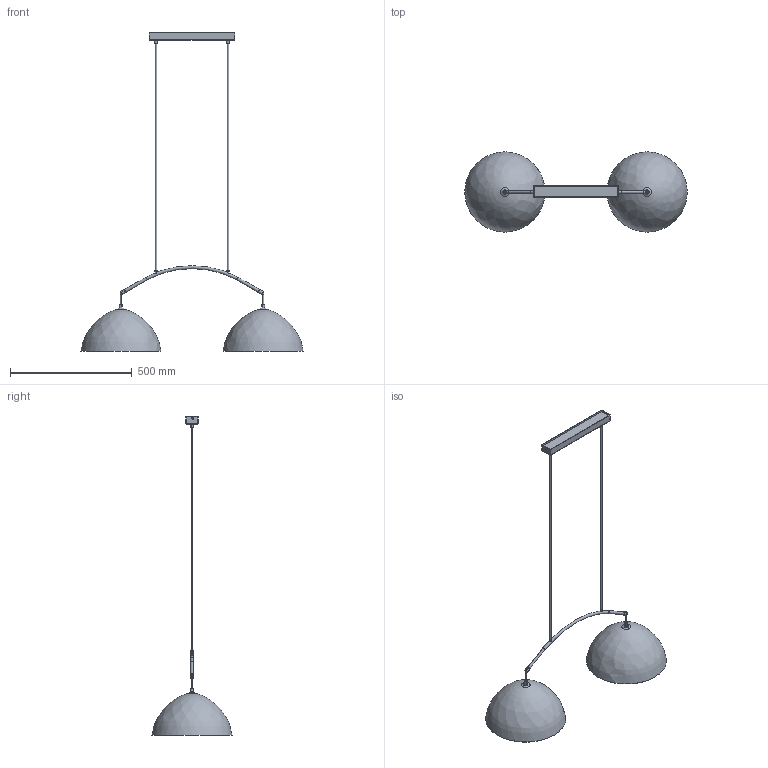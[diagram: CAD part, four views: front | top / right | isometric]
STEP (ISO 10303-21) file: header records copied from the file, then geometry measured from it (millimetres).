
FILE_DESCRIPTION(/* description */ (''),/* implementation_level */ '2;1');
FILE_NAME(/* name */ 'C:/Users/Jakub Wieczorkowski/Desktop/STEP/6008_FARO NEW v4 v2 v1.step',/* time_stamp */ '2022-02-22T08:57:19+01:00',/* author */ (''),/* organization */ (''),/* preprocessor_version */ 'ST-DEVELOPER v18.1',/* originating_system */ 'Autodesk Translation Framework v10.13.0.1454',/* authorisation */ '');
FILE_SCHEMA (('AUTOMOTIVE_DESIGN { 1 0 10303 214 3 1 1 }'));
Products named in the file (10): 6008_FARO NEW v4 v2; Component1; FARO NEW 330 v3; Cięgno v2 v1 v1; Belka górna FARO NEW 6008 v3; ŚRUBA_ROLLO v1 (1); ŚRUBA_ROLLO v1(Mirror) (1); FARO NEW 330 v3(Mirror); FARO NEW_OPRAWA v3; FARO NEW_OPRAWA v3 (1)
Assembly tree (9 placements, depth 3):
  6008_FARO NEW v4 v2
    Component1
    FARO NEW 330 v3
    Cięgno v2 v1 v1
    Belka górna FARO NEW 6008 v3
      ŚRUBA_ROLLO v1 (1)
      ŚRUBA_ROLLO v1(Mirror) (1)
    FARO NEW 330 v3(Mirror)
    FARO NEW_OPRAWA v3
    FARO NEW_OPRAWA v3 (1)
Bounding box: 915.06 x 330 x 1310 mm (x, y, z)
Volume: 955213.3 mm3; surface area: 899632 mm2
Topology: 35 solids, 35 shells, 317 faces, 815 edges, 572 vertices
Faces by surface type: plane 148, cylinder 124, bspline 24, torus 11, cone 8, sphere 2
Full cylindrical faces by diameter (mm): 5 x6, 5.5 x4, 5.6 x2, 6 x4, 6.5 x2, 8 x2, 9 x2, 11 x2, 12 x6, 14 x2, 23.022 x28, 25.256 x28, 27.5 x4, 37.7 x2, 39 x2
Entity records: 39588 total; most frequent: CARTESIAN_POINT 31999, ORIENTED_EDGE 1614, DIRECTION 1318, EDGE_CURVE 807, VERTEX_POINT 572, AXIS2_PLACEMENT_3D 493, EDGE_LOOP 345, LINE 332
